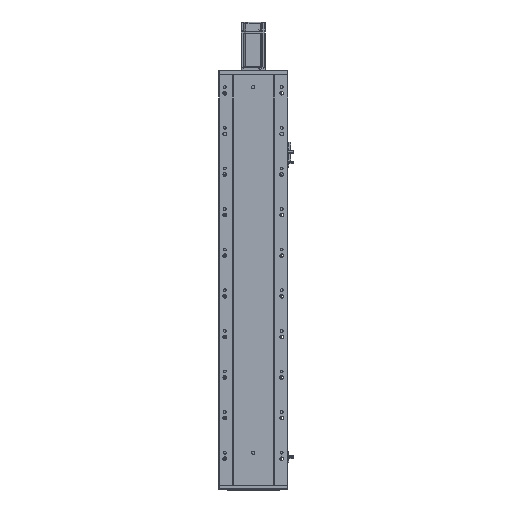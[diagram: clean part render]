
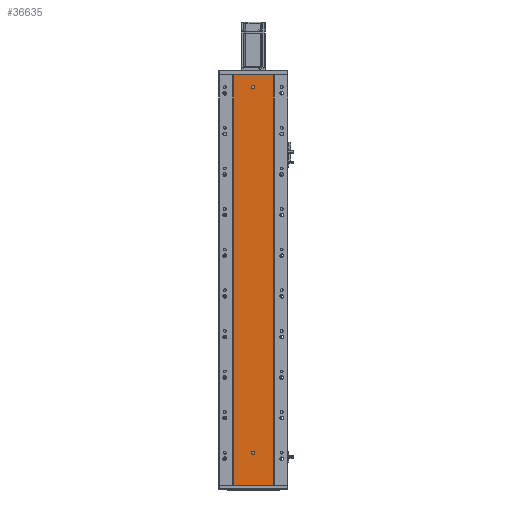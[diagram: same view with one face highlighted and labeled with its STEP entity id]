
A CAD part, front view. The second image highlights one B-rep face of the part: STEP entity #36635.
In plain terms, the highlighted planar face has unit normal (0, -1, 0).
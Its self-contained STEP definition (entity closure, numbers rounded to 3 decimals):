
#1776 = AXIS2_PLACEMENT_3D ( 'NONE', #56247, #56246, #56252 ) ;
#14209 = EDGE_CURVE ( 'NONE', #40392, #46021, #60826, .T. ) ;
#14244 = EDGE_CURVE ( 'NONE', #47549, #47475, #60918, .T. ) ;
#14304 = EDGE_CURVE ( 'NONE', #40418, #45989, #60914, .T. ) ;
#14332 = EDGE_CURVE ( 'NONE', #46021, #45989, #44681, .T. ) ;
#16997 = PLANE ( 'NONE',  #17944 ) ;
#16999 = CARTESIAN_POINT ( 'NONE',  ( 0., 79.476, 1010. ) ) ;
#17003 = DIRECTION ( 'NONE',  ( 0., 1., 0. ) ) ;
#17004 = DIRECTION ( 'NONE',  ( 0., 0., 1. ) ) ;
#17944 = AXIS2_PLACEMENT_3D ( 'NONE', #16999, #17003, #17004 ) ;
#22153 = EDGE_CURVE ( 'NONE', #47522, #47384, #44827, .T. ) ;
#22216 = EDGE_CURVE ( 'NONE', #47475, #47549, #42282, .T. ) ;
#22374 = FACE_BOUND ( 'NONE', #32790, .T. ) ;
#22389 = FACE_OUTER_BOUND ( 'NONE', #32794, .T. ) ;
#22409 = FACE_BOUND ( 'NONE', #32825, .T. ) ;
#32790 = EDGE_LOOP ( 'NONE', ( #53527, #53498 ) ) ;
#32794 = EDGE_LOOP ( 'NONE', ( #53481, #53485, #53528, #53487 ) ) ;
#32825 = EDGE_LOOP ( 'NONE', ( #53486, #53474 ) ) ;
#36635 = ADVANCED_FACE ( 'NONE', ( #22374, #22409, #22389 ), #16997, .F. ) ;
#38922 = DIRECTION ( 'NONE',  ( 0., -1., 0. ) ) ;
#38935 = CARTESIAN_POINT ( 'NONE',  ( 136.47, 79.476, 980. ) ) ;
#38942 = DIRECTION ( 'NONE',  ( 0., 0., -1. ) ) ;
#39107 = CARTESIAN_POINT ( 'NONE',  ( 136.47, 79.476, 80. ) ) ;
#39109 = DIRECTION ( 'NONE',  ( 0., -1., 0. ) ) ;
#39164 = DIRECTION ( 'NONE',  ( 0., 0., -1. ) ) ;
#40392 = VERTEX_POINT ( 'NONE', #65517 ) ;
#40418 = VERTEX_POINT ( 'NONE', #65476 ) ;
#42282 = CIRCLE ( 'NONE', #54221, 4. ) ;
#44681 = B_SPLINE_CURVE_WITH_KNOTS ( 'NONE', 3,
 ( #56334, #56343, #56339, #56331 ),
 .UNSPECIFIED., .F., .F.,
 ( 4, 4 ),
 ( 0., 1. ),
 .UNSPECIFIED. ) ;
#44827 = CIRCLE ( 'NONE', #54204, 4. ) ;
#45989 = VERTEX_POINT ( 'NONE', #66192 ) ;
#46021 = VERTEX_POINT ( 'NONE', #66235 ) ;
#47384 = VERTEX_POINT ( 'NONE', #64864 ) ;
#47475 = VERTEX_POINT ( 'NONE', #64854 ) ;
#47522 = VERTEX_POINT ( 'NONE', #63857 ) ;
#47549 = VERTEX_POINT ( 'NONE', #63827 ) ;
#51536 = EDGE_CURVE ( 'NONE', #47384, #47522, #67447, .T. ) ;
#51567 = EDGE_CURVE ( 'NONE', #40392, #40418, #67126, .T. ) ;
#53474 = ORIENTED_EDGE ( 'NONE', *, *, #22216, .F. ) ;
#53481 = ORIENTED_EDGE ( 'NONE', *, *, #14304, .T. ) ;
#53485 = ORIENTED_EDGE ( 'NONE', *, *, #14332, .F. ) ;
#53486 = ORIENTED_EDGE ( 'NONE', *, *, #14244, .F. ) ;
#53487 = ORIENTED_EDGE ( 'NONE', *, *, #51567, .T. ) ;
#53498 = ORIENTED_EDGE ( 'NONE', *, *, #22153, .F. ) ;
#53527 = ORIENTED_EDGE ( 'NONE', *, *, #51536, .F. ) ;
#53528 = ORIENTED_EDGE ( 'NONE', *, *, #14209, .F. ) ;
#54204 = AXIS2_PLACEMENT_3D ( 'NONE', #38935, #38922, #38942 ) ;
#54221 = AXIS2_PLACEMENT_3D ( 'NONE', #39107, #39109, #39164 ) ;
#56195 = DIRECTION ( 'NONE',  ( 1., 0., 0. ) ) ;
#56211 = CARTESIAN_POINT ( 'NONE',  ( 0., 79.476, 1010. ) ) ;
#56246 = DIRECTION ( 'NONE',  ( 0., -1., 0. ) ) ;
#56247 = CARTESIAN_POINT ( 'NONE',  ( 136.47, 79.476, 80. ) ) ;
#56252 = DIRECTION ( 'NONE',  ( 0., 0., -1. ) ) ;
#56292 = DIRECTION ( 'NONE',  ( 1., 0., 0. ) ) ;
#56306 = CARTESIAN_POINT ( 'NONE',  ( 0., 79.476, 0. ) ) ;
#56331 = CARTESIAN_POINT ( 'NONE',  ( 185.97, 79.476, 0. ) ) ;
#56334 = CARTESIAN_POINT ( 'NONE',  ( 185.97, 79.476, 1010. ) ) ;
#56339 = CARTESIAN_POINT ( 'NONE',  ( 185.97, 79.476, 336.667 ) ) ;
#56343 = CARTESIAN_POINT ( 'NONE',  ( 185.97, 79.476, 673.333 ) ) ;
#60826 = LINE ( 'NONE', #56211, #60875 ) ;
#60875 = VECTOR ( 'NONE', #56195, 1000. ) ;
#60914 = LINE ( 'NONE', #56306, #60937 ) ;
#60918 = CIRCLE ( 'NONE', #1776, 4. ) ;
#60937 = VECTOR ( 'NONE', #56292, 1000. ) ;
#63827 = CARTESIAN_POINT ( 'NONE',  ( 136.47, 79.476, 76. ) ) ;
#63857 = CARTESIAN_POINT ( 'NONE',  ( 136.47, 79.476, 984. ) ) ;
#63912 = DIRECTION ( 'NONE',  ( 0., 0., -1. ) ) ;
#63921 = DIRECTION ( 'NONE',  ( 0., -1., 0. ) ) ;
#63923 = CARTESIAN_POINT ( 'NONE',  ( 136.47, 79.476, 980. ) ) ;
#63960 = CARTESIAN_POINT ( 'NONE',  ( 86.97, 79.476, 1010. ) ) ;
#63964 = CARTESIAN_POINT ( 'NONE',  ( 86.97, 79.476, 673.333 ) ) ;
#64010 = CARTESIAN_POINT ( 'NONE',  ( 86.97, 79.476, 0. ) ) ;
#64035 = CARTESIAN_POINT ( 'NONE',  ( 86.97, 79.476, 336.667 ) ) ;
#64854 = CARTESIAN_POINT ( 'NONE',  ( 136.47, 79.476, 84. ) ) ;
#64864 = CARTESIAN_POINT ( 'NONE',  ( 136.47, 79.476, 976. ) ) ;
#65476 = CARTESIAN_POINT ( 'NONE',  ( 86.97, 79.476, 0. ) ) ;
#65517 = CARTESIAN_POINT ( 'NONE',  ( 86.97, 79.476, 1010. ) ) ;
#66192 = CARTESIAN_POINT ( 'NONE',  ( 185.97, 79.476, 0. ) ) ;
#66235 = CARTESIAN_POINT ( 'NONE',  ( 185.97, 79.476, 1010. ) ) ;
#67126 = B_SPLINE_CURVE_WITH_KNOTS ( 'NONE', 3,
 ( #63960, #63964, #64035, #64010 ),
 .UNSPECIFIED., .F., .F.,
 ( 4, 4 ),
 ( 0., 1. ),
 .UNSPECIFIED. ) ;
#67447 = CIRCLE ( 'NONE', #68614, 4. ) ;
#68614 = AXIS2_PLACEMENT_3D ( 'NONE', #63923, #63921, #63912 ) ;
